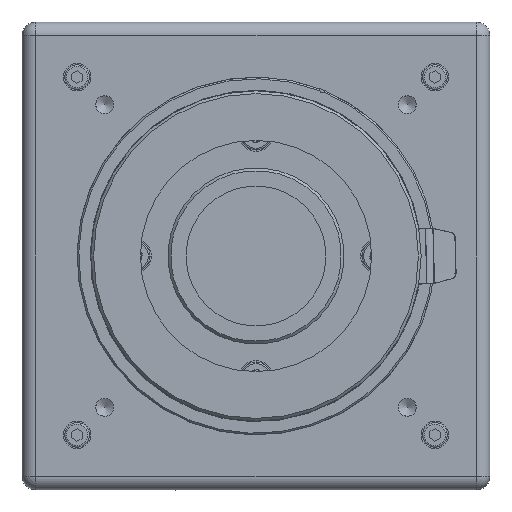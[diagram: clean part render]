
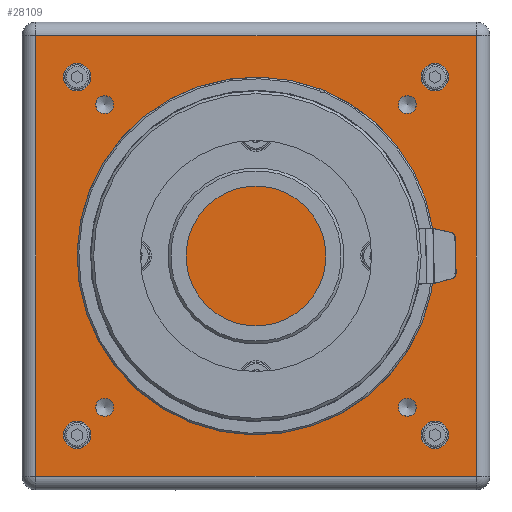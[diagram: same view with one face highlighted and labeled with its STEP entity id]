
A CAD part, front view. The second image highlights one B-rep face of the part: STEP entity #28109.
In plain terms, the highlighted planar face has unit normal (0, -1, 0).
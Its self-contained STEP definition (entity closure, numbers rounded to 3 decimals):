
#2251=FACE_BOUND('',#5590,.T.);
#2252=FACE_BOUND('',#5591,.T.);
#2253=FACE_BOUND('',#5592,.T.);
#2254=FACE_BOUND('',#5593,.T.);
#2255=FACE_BOUND('',#5594,.T.);
#2256=FACE_BOUND('',#5595,.T.);
#2257=FACE_BOUND('',#5596,.T.);
#2258=FACE_BOUND('',#5597,.T.);
#2831=CIRCLE('',#29777,1.621);
#2833=CIRCLE('',#29781,1.621);
#2835=CIRCLE('',#29784,1.621);
#2837=CIRCLE('',#29788,1.621);
#2841=CIRCLE('',#29800,2.5);
#2843=CIRCLE('',#29803,2.5);
#2845=CIRCLE('',#29806,2.5);
#2847=CIRCLE('',#29809,2.5);
#4097=FACE_OUTER_BOUND('',#5589,.T.);
#5589=EDGE_LOOP('',(#21658,#21659,#21660,#21661));
#5590=EDGE_LOOP('',(#21662));
#5591=EDGE_LOOP('',(#21663));
#5592=EDGE_LOOP('',(#21664));
#5593=EDGE_LOOP('',(#21665));
#5594=EDGE_LOOP('',(#21666));
#5595=EDGE_LOOP('',(#21667));
#5596=EDGE_LOOP('',(#21668));
#5597=EDGE_LOOP('',(#21669));
#7605=LINE('',#86593,#9679);
#7606=LINE('',#86607,#9680);
#7607=LINE('',#86609,#9681);
#7608=LINE('',#86611,#9682);
#9679=VECTOR('',#33535,80.);
#9680=VECTOR('',#33558,80.);
#9681=VECTOR('',#33561,80.);
#9682=VECTOR('',#33564,80.);
#12498=VERTEX_POINT('',#86442);
#12500=VERTEX_POINT('',#86448);
#12502=VERTEX_POINT('',#86453);
#12505=VERTEX_POINT('',#86502);
#12510=VERTEX_POINT('',#86561);
#12512=VERTEX_POINT('',#86566);
#12514=VERTEX_POINT('',#86571);
#12516=VERTEX_POINT('',#86576);
#12518=VERTEX_POINT('',#86581);
#12519=VERTEX_POINT('',#86587);
#12520=VERTEX_POINT('',#86595);
#12521=VERTEX_POINT('',#86601);
#16386=EDGE_CURVE('',#12498,#12498,#2831,.T.);
#16388=EDGE_CURVE('',#12500,#12500,#2833,.T.);
#16390=EDGE_CURVE('',#12502,#12502,#2835,.T.);
#16393=EDGE_CURVE('',#12505,#12505,#2837,.T.);
#16398=EDGE_CURVE('',#12510,#12510,#2841,.T.);
#16400=EDGE_CURVE('',#12512,#12512,#2843,.T.);
#16402=EDGE_CURVE('',#12514,#12514,#2845,.T.);
#16404=EDGE_CURVE('',#12516,#12516,#2847,.T.);
#16412=EDGE_CURVE('',#12518,#12519,#7605,.T.);
#16419=EDGE_CURVE('',#12519,#12521,#7606,.T.);
#16420=EDGE_CURVE('',#12521,#12520,#7607,.T.);
#16421=EDGE_CURVE('',#12520,#12518,#7608,.T.);
#21658=ORIENTED_EDGE('',*,*,#16412,.F.);
#21659=ORIENTED_EDGE('',*,*,#16421,.F.);
#21660=ORIENTED_EDGE('',*,*,#16420,.F.);
#21661=ORIENTED_EDGE('',*,*,#16419,.F.);
#21662=ORIENTED_EDGE('',*,*,#16386,.T.);
#21663=ORIENTED_EDGE('',*,*,#16388,.T.);
#21664=ORIENTED_EDGE('',*,*,#16390,.T.);
#21665=ORIENTED_EDGE('',*,*,#16393,.T.);
#21666=ORIENTED_EDGE('',*,*,#16398,.T.);
#21667=ORIENTED_EDGE('',*,*,#16400,.T.);
#21668=ORIENTED_EDGE('',*,*,#16402,.T.);
#21669=ORIENTED_EDGE('',*,*,#16404,.T.);
#25662=PLANE('',#29835);
#28109=ADVANCED_FACE('',(#4097,#2251,#2252,#2253,#2254,#2255,#2256,#2257,
#2258),#25662,.T.);
#29777=AXIS2_PLACEMENT_3D('',#86443,#33445,#33446);
#29781=AXIS2_PLACEMENT_3D('',#86449,#33453,#33454);
#29784=AXIS2_PLACEMENT_3D('',#86454,#33459,#33460);
#29788=AXIS2_PLACEMENT_3D('',#86503,#33467,#33468);
#29800=AXIS2_PLACEMENT_3D('',#86562,#33491,#33492);
#29803=AXIS2_PLACEMENT_3D('',#86567,#33497,#33498);
#29806=AXIS2_PLACEMENT_3D('',#86572,#33503,#33504);
#29809=AXIS2_PLACEMENT_3D('',#86577,#33509,#33510);
#29835=AXIS2_PLACEMENT_3D('',#86612,#33565,#33566);
#33445=DIRECTION('center_axis',(0.,1.,0.));
#33446=DIRECTION('ref_axis',(0.,0.,
-1.));
#33453=DIRECTION('center_axis',(0.,1.,0.));
#33454=DIRECTION('ref_axis',(0.,0.,
-1.));
#33459=DIRECTION('center_axis',(0.,1.,0.));
#33460=DIRECTION('ref_axis',(0.,0.,
-1.));
#33467=DIRECTION('center_axis',(0.,1.,0.));
#33468=DIRECTION('ref_axis',(0.,0.,
-1.));
#33491=DIRECTION('center_axis',(0.,1.,0.));
#33492=DIRECTION('ref_axis',(0.,0.,
-1.));
#33497=DIRECTION('center_axis',(0.,1.,0.));
#33498=DIRECTION('ref_axis',(0.,0.,
-1.));
#33503=DIRECTION('center_axis',(0.,1.,0.));
#33504=DIRECTION('ref_axis',(0.,0.,
-1.));
#33509=DIRECTION('center_axis',(0.,1.,0.));
#33510=DIRECTION('ref_axis',(0.,0.,
-1.));
#33535=DIRECTION('',(-1.,0.,0.));
#33558=DIRECTION('',(0.,0.,1.));
#33561=DIRECTION('',(1.,0.,0.));
#33564=DIRECTION('',(0.,0.,-1.));
#33565=DIRECTION('center_axis',(0.,-1.,0.));
#33566=DIRECTION('ref_axis',(0.,0.,-1.));
#86442=CARTESIAN_POINT('',(-136.358,-97.96,2.84));
#86443=CARTESIAN_POINT('Origin',(-136.358,-97.96,4.461));
#86448=CARTESIAN_POINT('',(-136.358,-97.96,-52.16));
#86449=CARTESIAN_POINT('Origin',(-136.358,-97.96,-50.539));
#86453=CARTESIAN_POINT('',(-81.358,-97.96,-52.16));
#86454=CARTESIAN_POINT('Origin',(-81.358,-97.96,-50.539));
#86502=CARTESIAN_POINT('',(-81.358,-97.96,2.84));
#86503=CARTESIAN_POINT('Origin',(-81.358,-97.96,4.461));
#86561=CARTESIAN_POINT('',(-141.358,-97.96,6.961));
#86562=CARTESIAN_POINT('Origin',(-141.358,-97.96,9.461));
#86566=CARTESIAN_POINT('',(-141.358,-97.96,-58.039));
#86567=CARTESIAN_POINT('Origin',(-141.358,-97.96,-55.539));
#86571=CARTESIAN_POINT('',(-76.358,-97.96,-58.039));
#86572=CARTESIAN_POINT('Origin',(-76.358,-97.96,-55.539));
#86576=CARTESIAN_POINT('',(-76.358,-97.96,6.961));
#86577=CARTESIAN_POINT('Origin',(-76.358,-97.96,9.461));
#86581=CARTESIAN_POINT('',(-68.858,-97.96,-63.039));
#86587=CARTESIAN_POINT('',(-148.858,-97.96,-63.039));
#86593=CARTESIAN_POINT('',(-87.608,-97.96,-63.039));
#86595=CARTESIAN_POINT('',(-68.858,-97.96,16.961));
#86601=CARTESIAN_POINT('',(-148.858,-97.96,16.961));
#86607=CARTESIAN_POINT('',(-148.858,-97.96,-44.289));
#86609=CARTESIAN_POINT('',(-130.108,-97.96,16.961));
#86611=CARTESIAN_POINT('',(-68.858,-97.96,-1.789));
#86612=CARTESIAN_POINT('Origin',(-108.858,-97.96,-23.039));
